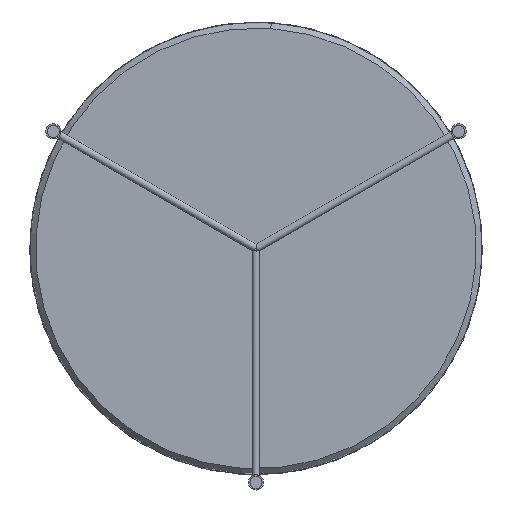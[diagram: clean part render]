
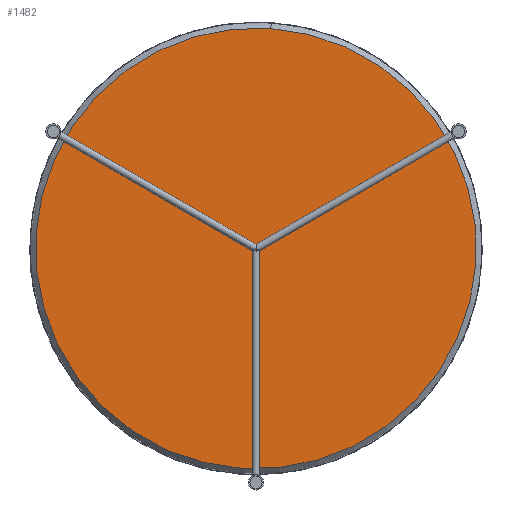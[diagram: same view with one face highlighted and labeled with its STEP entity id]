
A CAD part, front view. The second image highlights one B-rep face of the part: STEP entity #1482.
In plain terms, the highlighted planar face has unit normal (0, -1, 0).
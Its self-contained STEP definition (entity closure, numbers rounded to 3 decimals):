
#145 = DIRECTION ( 'NONE',  ( 0., 0., -1. ) ) ;
#220 = DIRECTION ( 'NONE',  ( 0., -1., 0. ) ) ;
#233 = VERTEX_POINT ( 'NONE', #2581 ) ;
#339 = EDGE_LOOP ( 'NONE', ( #3935, #373 ) ) ;
#373 = ORIENTED_EDGE ( 'NONE', *, *, #3233, .T. ) ;
#402 = PLANE ( 'NONE',  #3153 ) ;
#1018 = DIRECTION ( 'NONE',  ( 0., 0., -1. ) ) ;
#1348 = CARTESIAN_POINT ( 'NONE',  ( 0., 0., 0. ) ) ;
#1407 = CIRCLE ( 'NONE', #4074, 292. ) ;
#1482 = ADVANCED_FACE ( 'NONE', ( #2207 ), #402, .T. ) ;
#1491 = DIRECTION ( 'NONE',  ( 0., -1., 0. ) ) ;
#1615 = CARTESIAN_POINT ( 'NONE',  ( 0., 0., 0. ) ) ;
#1804 = VERTEX_POINT ( 'NONE', #2487 ) ;
#2207 = FACE_OUTER_BOUND ( 'NONE', #339, .T. ) ;
#2382 = DIRECTION ( 'NONE',  ( 0., 0., -1. ) ) ;
#2487 = CARTESIAN_POINT ( 'NONE',  ( 0., 0., -292. ) ) ;
#2581 = CARTESIAN_POINT ( 'NONE',  ( 0., 0., 292. ) ) ;
#3153 = AXIS2_PLACEMENT_3D ( 'NONE', #3305, #1491, #2382 ) ;
#3233 = EDGE_CURVE ( 'NONE', #1804, #233, #1407, .T. ) ;
#3305 = CARTESIAN_POINT ( 'NONE',  ( 0., 0., 0. ) ) ;
#3411 = EDGE_CURVE ( 'NONE', #233, #1804, #4219, .T. ) ;
#3899 = DIRECTION ( 'NONE',  ( 0., -1., 0. ) ) ;
#3935 = ORIENTED_EDGE ( 'NONE', *, *, #3411, .T. ) ;
#4074 = AXIS2_PLACEMENT_3D ( 'NONE', #1615, #220, #145 ) ;
#4219 = CIRCLE ( 'NONE', #4611, 292. ) ;
#4611 = AXIS2_PLACEMENT_3D ( 'NONE', #1348, #3899, #1018 ) ;
